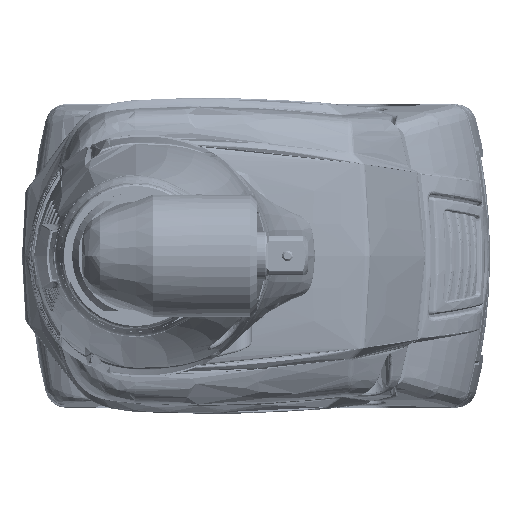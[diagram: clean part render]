
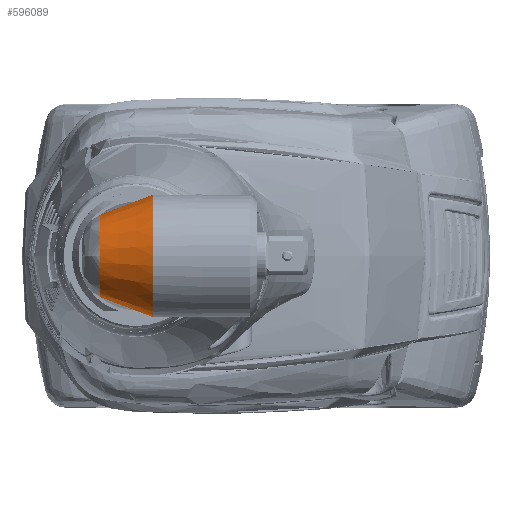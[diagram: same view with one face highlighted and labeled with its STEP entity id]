
A CAD part, left-side view. The second image highlights one B-rep face of the part: STEP entity #596089.
In plain terms, the highlighted conical face has half-angle 20.958 degrees and reference radius 12.5 mm.
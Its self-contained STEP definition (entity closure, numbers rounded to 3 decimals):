
#73319=CARTESIAN_POINT('',(-237.647,0.206,
-13.255));
#73320=CARTESIAN_POINT('',(-237.647,1.15,
-12.893));
#73321=CARTESIAN_POINT('',(-237.647,3.038,
-12.17));
#73322=CARTESIAN_POINT('',(-237.647,5.87,
-11.085));
#73323=CARTESIAN_POINT('',(-237.647,7.758,
-10.362));
#73324=CARTESIAN_POINT('',(-237.647,8.702,
-10.001));
#73329=CARTESIAN_POINT('',(-237.6,8.704,0.));
#73330=DIRECTION('',(0.,-1.,0.));
#73331=DIRECTION('',(-1.,0.,0.));
#73332=AXIS2_PLACEMENT_3D('',#73329,#73330,#73331);
#73337=CARTESIAN_POINT('',(-237.6,8.704,0.));
#73338=DIRECTION('',(0.,1.,0.));
#73339=DIRECTION('',(-1.,0.,0.));
#73340=AXIS2_PLACEMENT_3D('',#73337,#73338,#73339);
#73345=CARTESIAN_POINT('',(-237.647,8.702,
10.001));
#73346=CARTESIAN_POINT('',(-237.647,7.758,
10.362));
#73347=CARTESIAN_POINT('',(-237.647,5.87,
11.085));
#73348=CARTESIAN_POINT('',(-237.647,3.038,
12.17));
#73349=CARTESIAN_POINT('',(-237.647,1.15,
12.893));
#73350=CARTESIAN_POINT('',(-237.647,0.206,
13.255));
#73355=CARTESIAN_POINT('',(-237.471,8.704,
-9.999));
#73356=CARTESIAN_POINT('',(-237.491,8.703,
-10.));
#73357=CARTESIAN_POINT('',(-237.53,8.702,
-10.));
#73358=CARTESIAN_POINT('',(-237.588,8.702,
-10.001));
#73359=CARTESIAN_POINT('',(-237.627,8.702,
-10.001));
#73360=CARTESIAN_POINT('',(-237.647,8.702,
-10.001));
#73527=CARTESIAN_POINT('',(-237.471,8.704,
-9.999));
#73548=CARTESIAN_POINT('',(-237.471,8.704,
9.999));
#73934=CARTESIAN_POINT('',(-237.6,-4.35,0.));
#73935=DIRECTION('',(0.,-1.,0.));
#73936=DIRECTION('',(-1.,0.,0.));
#73937=AXIS2_PLACEMENT_3D('',#73934,#73935,#73936);
#73966=CARTESIAN_POINT('',(-237.647,0.206,
-13.255));
#73967=CARTESIAN_POINT('',(-237.584,0.206,
-13.255));
#73968=CARTESIAN_POINT('',(-237.456,0.205,
-13.255));
#73969=CARTESIAN_POINT('',(-237.263,0.194,
-13.256));
#73970=CARTESIAN_POINT('',(-237.066,0.174,
-13.257));
#73971=CARTESIAN_POINT('',(-236.867,0.145,
-13.259));
#73972=CARTESIAN_POINT('',(-236.662,0.105,
-13.261));
#73973=CARTESIAN_POINT('',(-236.451,0.055,
-13.264));
#73974=CARTESIAN_POINT('',(-236.232,-0.007,
-13.267));
#73975=CARTESIAN_POINT('',(-236.002,-0.082,
-13.27));
#73976=CARTESIAN_POINT('',(-235.76,-0.173,
-13.274));
#73977=CARTESIAN_POINT('',(-235.503,-0.28,
-13.277));
#73978=CARTESIAN_POINT('',(-235.228,-0.408,
-13.281));
#73979=CARTESIAN_POINT('',(-234.931,-0.558,
-13.283));
#73980=CARTESIAN_POINT('',(-234.607,-0.736,
-13.284));
#73981=CARTESIAN_POINT('',(-234.251,-0.948,
-13.283));
#73982=CARTESIAN_POINT('',(-233.855,-1.199,
-13.277));
#73983=CARTESIAN_POINT('',(-233.412,-1.498,
-13.265));
#73984=CARTESIAN_POINT('',(-232.914,-1.854,
-13.242));
#73985=CARTESIAN_POINT('',(-232.356,-2.272,
-13.205));
#73986=CARTESIAN_POINT('',(-231.74,-2.754,
-13.146));
#73987=CARTESIAN_POINT('',(-231.1,-3.274,
-13.065));
#73988=CARTESIAN_POINT('',(-230.453,-3.814,
-12.959));
#73989=CARTESIAN_POINT('',(-230.034,-4.171,
-12.874));
#73990=CARTESIAN_POINT('',(-229.826,-4.35,
-12.829));
#74073=CARTESIAN_POINT('',(-237.6,-4.35,0.));
#74074=DIRECTION('',(0.,1.,0.));
#74075=DIRECTION('',(-1.,0.,0.));
#74076=AXIS2_PLACEMENT_3D('',#74073,#74074,#74075);
#74126=CARTESIAN_POINT('',(-229.826,-4.35,
12.829));
#74127=CARTESIAN_POINT('',(-230.035,-4.171,
12.874));
#74128=CARTESIAN_POINT('',(-230.454,-3.813,
12.959));
#74129=CARTESIAN_POINT('',(-231.102,-3.272,
13.065));
#74130=CARTESIAN_POINT('',(-231.744,-2.752,
13.147));
#74131=CARTESIAN_POINT('',(-232.36,-2.269,
13.205));
#74132=CARTESIAN_POINT('',(-232.918,-1.851,
13.242));
#74133=CARTESIAN_POINT('',(-233.416,-1.495,
13.265));
#74134=CARTESIAN_POINT('',(-233.859,-1.196,
13.277));
#74135=CARTESIAN_POINT('',(-234.255,-0.945,
13.283));
#74136=CARTESIAN_POINT('',(-234.611,-0.734,
13.284));
#74137=CARTESIAN_POINT('',(-234.935,-0.556,
13.283));
#74138=CARTESIAN_POINT('',(-235.232,-0.406,
13.281));
#74139=CARTESIAN_POINT('',(-235.507,-0.279,
13.277));
#74140=CARTESIAN_POINT('',(-235.763,-0.172,
13.274));
#74141=CARTESIAN_POINT('',(-236.005,-0.081,
13.27));
#74142=CARTESIAN_POINT('',(-236.234,-0.006,
13.267));
#74143=CARTESIAN_POINT('',(-236.453,0.056,
13.264));
#74144=CARTESIAN_POINT('',(-236.664,0.106,
13.261));
#74145=CARTESIAN_POINT('',(-236.868,0.145,
13.259));
#74146=CARTESIAN_POINT('',(-237.067,0.174,
13.257));
#74147=CARTESIAN_POINT('',(-237.263,0.194,
13.256));
#74148=CARTESIAN_POINT('',(-237.457,0.205,
13.255));
#74149=CARTESIAN_POINT('',(-237.584,0.206,
13.255));
#74150=CARTESIAN_POINT('',(-237.647,0.206,
13.255));
#74410=CARTESIAN_POINT('',(-237.647,8.702,
10.001));
#74411=CARTESIAN_POINT('',(-237.627,8.702,
10.001));
#74412=CARTESIAN_POINT('',(-237.588,8.702,
10.001));
#74413=CARTESIAN_POINT('',(-237.53,8.702,
10.));
#74414=CARTESIAN_POINT('',(-237.491,8.703,
10.));
#74415=CARTESIAN_POINT('',(-237.471,8.704,
9.999));
#472662=CARTESIAN_POINT('',(-247.6,8.704,0.));
#472664=VERTEX_POINT('',#472662);
#472665=CARTESIAN_POINT('',(-252.6,-4.35,0.));
#472667=VERTEX_POINT('',#472665);
#472671=VERTEX_POINT('',#73548);
#472673=VERTEX_POINT('',#73527);
#472679=CARTESIAN_POINT('',(-229.826,-4.35,12.829));
#472680=VERTEX_POINT('',#472679);
#472681=CARTESIAN_POINT('',(-229.826,-4.35,-12.829));
#472682=VERTEX_POINT('',#472681);
#472697=VERTEX_POINT('',#73345);
#472698=VERTEX_POINT('',#73350);
#472705=VERTEX_POINT('',#73319);
#472706=VERTEX_POINT('',#73324);
#596063=CARTESIAN_POINT('',(-237.6,2.177,0.));
#596064=DIRECTION('',(0.,-1.,0.));
#596065=DIRECTION('',(-1.,0.,0.));
#596066=AXIS2_PLACEMENT_3D('',#596063,#596064,#596065);
#596067=CONICAL_SURFACE('',#596066,12.5,20.958);
#596068=ORIENTED_EDGE('',*,*,#596040,.T.);
#596070=ORIENTED_EDGE('',*,*,#596069,.F.);
#596072=ORIENTED_EDGE('',*,*,#596071,.F.);
#596074=ORIENTED_EDGE('',*,*,#596073,.T.);
#596076=ORIENTED_EDGE('',*,*,#596075,.F.);
#596078=ORIENTED_EDGE('',*,*,#596077,.T.);
#596080=ORIENTED_EDGE('',*,*,#596079,.F.);
#596082=ORIENTED_EDGE('',*,*,#596081,.F.);
#596084=ORIENTED_EDGE('',*,*,#596083,.T.);
#596086=ORIENTED_EDGE('',*,*,#596085,.F.);
#596087=EDGE_LOOP('',(#596068,#596070,#596072,#596074,#596076,#596078,#596080,
#596082,#596084,#596086));
#596088=FACE_OUTER_BOUND('',#596087,.F.);
#596089=ADVANCED_FACE('',(#596088),#596067,.T.);
#73325=B_SPLINE_CURVE_WITH_KNOTS('',3,(#73319,#73320,#73321,#73322,#73323,
#73324),.UNSPECIFIED.,.F.,.F.,(4,1,1,4),(0.,0.333,
0.667,1.),.UNSPECIFIED.);
#73333=CIRCLE('',#73332,10.);
#73341=CIRCLE('',#73340,10.);
#73351=B_SPLINE_CURVE_WITH_KNOTS('',3,(#73345,#73346,#73347,#73348,#73349,
#73350),.UNSPECIFIED.,.F.,.F.,(4,1,1,4),(0.,0.333,
0.667,1.),.UNSPECIFIED.);
#73361=B_SPLINE_CURVE_WITH_KNOTS('',3,(#73355,#73356,#73357,#73358,#73359,
#73360),.UNSPECIFIED.,.F.,.F.,(4,1,1,4),(0.,0.333,
0.667,1.),.UNSPECIFIED.);
#73938=CIRCLE('',#73937,15.);
#73991=B_SPLINE_CURVE_WITH_KNOTS('',3,(#73966,#73967,#73968,#73969,#73970,
#73971,#73972,#73973,#73974,#73975,#73976,#73977,#73978,#73979,#73980,#73981,
#73982,#73983,#73984,#73985,#73986,#73987,#73988,#73989,#73990),.UNSPECIFIED.,
.F.,.F.,(4,1,1,1,1,1,1,1,1,1,1,1,1,1,1,1,1,1,1,1,1,1,4),(0.,0.045,
0.091,0.136,0.182,0.227,
0.273,0.318,0.364,0.409,
0.455,0.5,0.545,0.591,0.636,
0.682,0.727,0.773,0.818,
0.864,0.909,0.955,1.),.UNSPECIFIED.);
#74077=CIRCLE('',#74076,15.);
#74151=B_SPLINE_CURVE_WITH_KNOTS('',3,(#74126,#74127,#74128,#74129,#74130,
#74131,#74132,#74133,#74134,#74135,#74136,#74137,#74138,#74139,#74140,#74141,
#74142,#74143,#74144,#74145,#74146,#74147,#74148,#74149,#74150),.UNSPECIFIED.,
.F.,.F.,(4,1,1,1,1,1,1,1,1,1,1,1,1,1,1,1,1,1,1,1,1,1,4),(0.,0.045,
0.091,0.136,0.182,0.227,
0.273,0.318,0.364,0.409,
0.455,0.5,0.545,0.591,0.636,
0.682,0.727,0.773,0.818,
0.864,0.909,0.955,1.),.UNSPECIFIED.);
#74416=B_SPLINE_CURVE_WITH_KNOTS('',3,(#74410,#74411,#74412,#74413,#74414,
#74415),.UNSPECIFIED.,.F.,.F.,(4,1,1,4),(0.,0.333,
0.667,1.),.UNSPECIFIED.);
#596040=EDGE_CURVE('',#472705,#472706,#73325,.T.);
#596069=EDGE_CURVE('',#472673,#472706,#73361,.T.);
#596071=EDGE_CURVE('',#472664,#472673,#73333,.T.);
#596073=EDGE_CURVE('',#472664,#472671,#73341,.T.);
#596075=EDGE_CURVE('',#472697,#472671,#74416,.T.);
#596077=EDGE_CURVE('',#472697,#472698,#73351,.T.);
#596079=EDGE_CURVE('',#472680,#472698,#74151,.T.);
#596081=EDGE_CURVE('',#472667,#472680,#74077,.T.);
#596083=EDGE_CURVE('',#472667,#472682,#73938,.T.);
#596085=EDGE_CURVE('',#472705,#472682,#73991,.T.);
